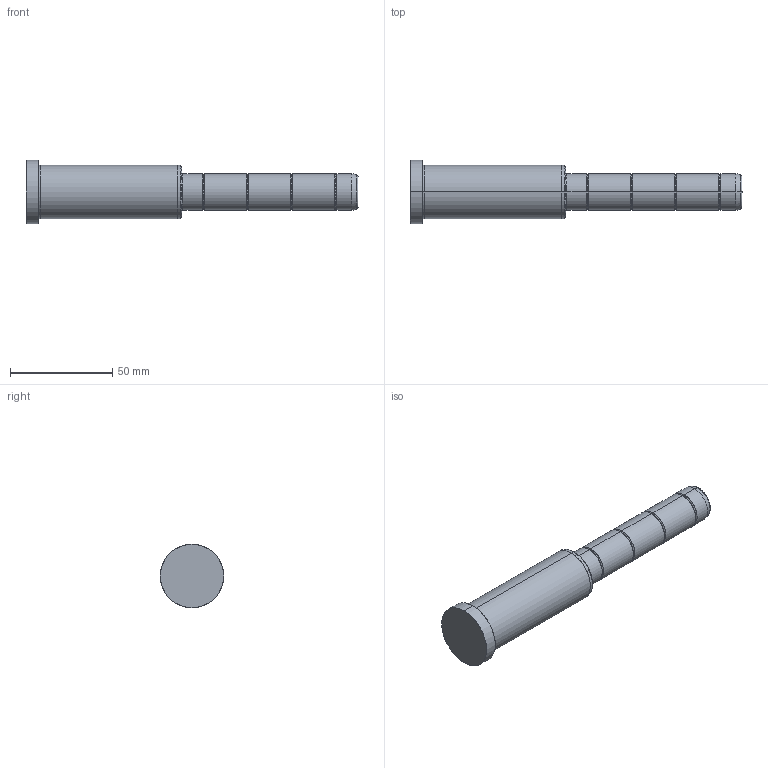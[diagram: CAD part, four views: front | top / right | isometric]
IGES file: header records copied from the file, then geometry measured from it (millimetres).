
Start section: SolidWorks IGES file using analytic representation for surfaces
Global section: file name: C:\Documents and Settings\kalite-mail\Desktop\IGS\D02\18\D02 - 18x76x86.IGS; native system: SolidWorks 2008; preprocessor: SolidWorks 2008; author: kalite-mail; date: 080616.155648; units: millimetre
Bounding box: 162 x 31 x 31 mm (x, y, z)
Surface area: 12703.7 mm2 (no closed solid volume)
Topology: 0 solids, 0 shells, 48 faces, 552 edges, 552 vertices
Faces by surface type: bspline 26, revolution 22
